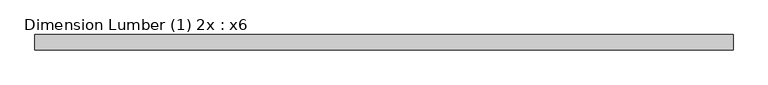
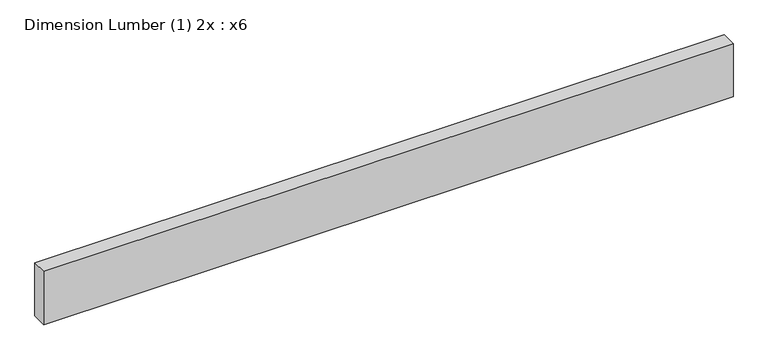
"""IFC4 building model written with IfcOpenShell, lengths in millimetres: beam geometry, Dimension Lumber (1) 2x : x6."""

from ifc_helpers import new_model, si_unit, frame, origin, place, context, project, spatial, polyline, outline, extrude, source, transform, mapped, element, save


def dimension_lumber_1_2x_x6_848c9500(model_context):
    return source(origin(), model_context, "Body", "SweptSolid", [
        extrude(outline(polyline([(857.25, 19.05), (857.25, -19.05), (-857.25, -19.05), (-857.25, 19.05), (857.25, 19.05)])), frame((0.0, 0.0, -69.85), z_axis=(0.0, 0.0, 1.0), x_axis=(1.0, 0.0, 0.0)), (0.0, 0.0, 1.0), 139.7),
    ])


if __name__ == "__main__":
    model = new_model("IFC4")
    model_context = context("Model", 3, world=origin())
    ifc_project = project(units=[si_unit("LENGTHUNIT", "METRE", prefix="MILLI")], contexts=[model_context])
    site = spatial("IfcSite", under=ifc_project)
    building = spatial("IfcBuilding", under=site)
    placement = place(None, origin())
    dimension_lumber_1_2x_x6_shape = dimension_lumber_1_2x_x6_848c9500(model_context)
    element("IfcBeam", 1, ObjectType="Dimension Lumber (1) 2x : x6", at=placement, inside=building, context=model_context, shape_type="MappedRepresentation", body=[
        mapped(dimension_lumber_1_2x_x6_shape, transform((0.0, 0.0, 0.0), x_axis=(1.0, 0.0, 0.0), y_axis=(0.0, 1.0, 0.0), z_axis=(0.0, 0.0, 1.0))),
    ])
    save(model, "model.ifc")
